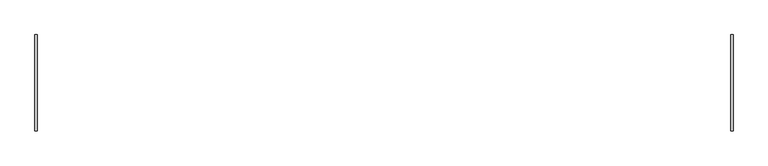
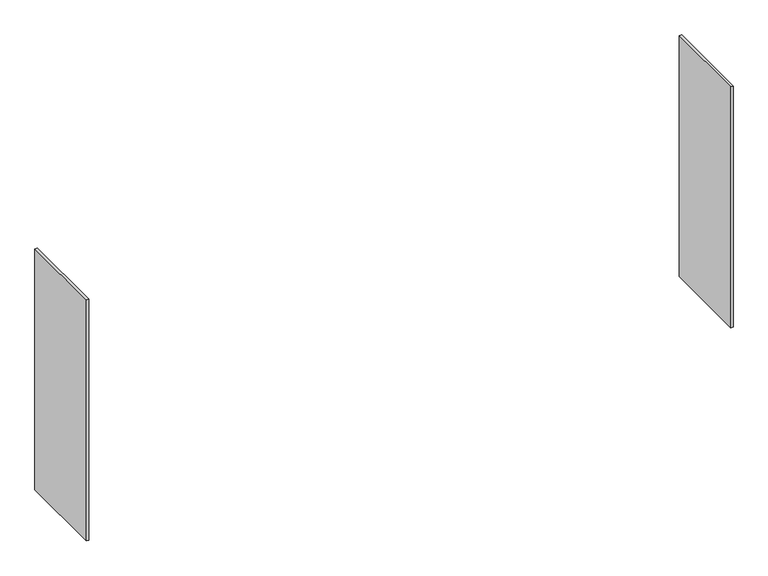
"""IFC4 building model written with IfcOpenShell, lengths in millimetres: furniture geometry, Lockers-Bay-Duracube-Duraloc : LSBM-1900h x 500d x 400w with 470h Shoe Box Mount."""

from ifc_helpers import new_model, si_unit, frame, origin, place, context, project, spatial, polyline, outline, extrude, source, transform, mapped, element, save


def furniture_83d2262f(model_context):
    return source(origin(), model_context, "Body", "SweptSolid", [
        extrude(outline(polyline([(3613.0, 250.0), (3626.0, 250.0), (3626.0, -250.0), (3613.0, -250.0), (3613.0, 250.0)])), frame((0.0, 0.0, 470.0), z_axis=(0.0, 0.0, 1.0), x_axis=(1.0, 0.0, 0.0)), (0.0, 0.0, 1.0), 1430.0),
        extrude(outline(polyline([(0.0, 250.0), (13.0, 250.0), (13.0, -250.0), (0.0, -250.0), (0.0, 250.0)])), frame((0.0, 0.0, 470.0), z_axis=(0.0, 0.0, 1.0), x_axis=(1.0, 0.0, 0.0)), (0.0, 0.0, 1.0), 1430.0),
    ])


if __name__ == "__main__":
    model = new_model("IFC4")
    model_context = context("Model", 3, world=origin())
    ifc_project = project(units=[si_unit("LENGTHUNIT", "METRE", prefix="MILLI")], contexts=[model_context])
    site = spatial("IfcSite", under=ifc_project)
    building = spatial("IfcBuilding", under=site)
    placement = place(None, origin())
    furniture_shape = furniture_83d2262f(model_context)
    element("IfcFurniture", 1, ObjectType="Lockers-Bay-Duracube-Duraloc : LSBM-1900h x 500d x 400w with 470h Shoe Box Mount", at=placement, inside=building, context=model_context, shape_type="MappedRepresentation", body=[
        mapped(furniture_shape, transform((0.0, 0.0, 0.0), x_axis=(1.0, 0.0, 0.0), y_axis=(0.0, 1.0, 0.0), z_axis=(0.0, 0.0, 1.0))),
    ])
    save(model, "model.ifc")
